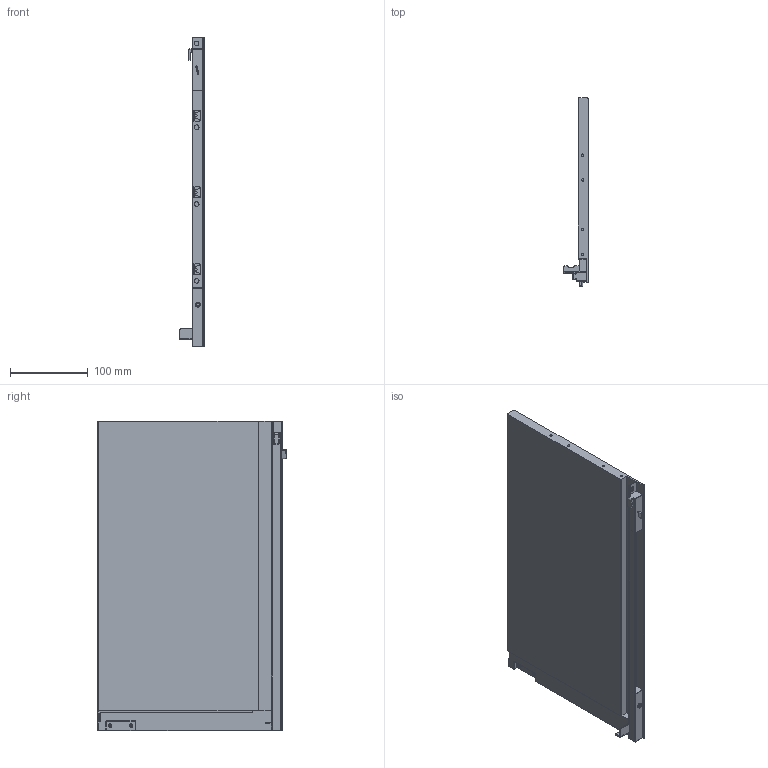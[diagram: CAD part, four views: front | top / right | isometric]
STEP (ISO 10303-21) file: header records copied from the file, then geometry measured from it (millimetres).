
FILE_DESCRIPTION (( 'STEP AP203' ), '1' );
FILE_NAME ('HT144001-R.STEP', '2021-03-16T02:41:23', ( 'Users' ), ( 'Microsoft' ), 'SwSTEP 2.0', 'SolidWorks 2018', '' );
FILE_SCHEMA (( 'CONFIG_CONTROL_DESIGN' ));
Length unit declared in the file: millimetre
Products named in the file (1): HT144001-R
Bounding box: 31.3 x 243 x 399 mm (x, y, z)
Volume: 1112531.4 mm3; surface area: 229580.9 mm2
Topology: 1 solids, 8 shells, 408 faces, 1031 edges, 641 vertices
Faces by surface type: plane 201, cylinder 143, torus 29, bspline 23, cone 6, sphere 6
Entity records: 12712 total; most frequent: CARTESIAN_POINT 2976, ORIENTED_EDGE 2044, DIRECTION 1979, EDGE_CURVE 1022, AXIS2_PLACEMENT_3D 674, VERTEX_POINT 641, LINE 631, VECTOR 631
